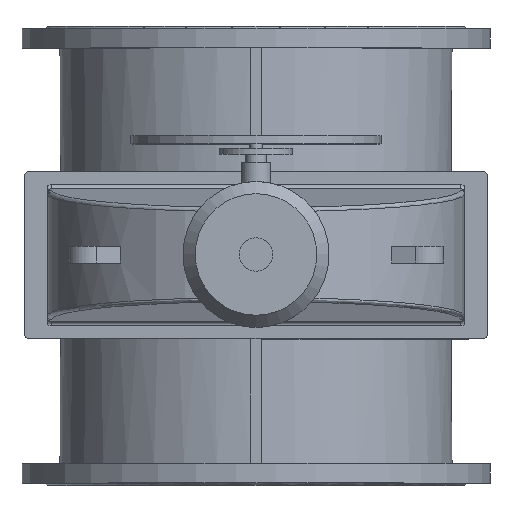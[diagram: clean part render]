
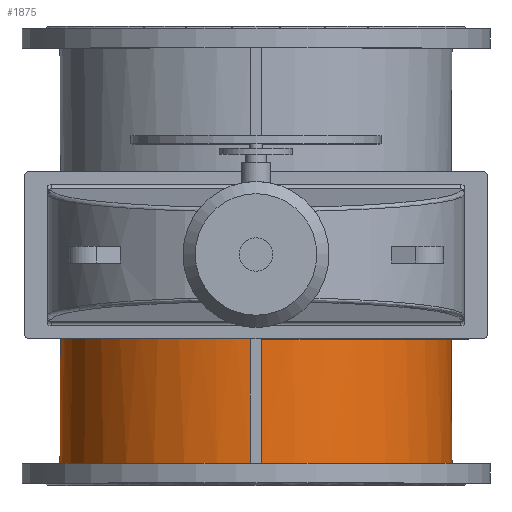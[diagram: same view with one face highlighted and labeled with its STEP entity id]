
A CAD part, top view. The second image highlights one B-rep face of the part: STEP entity #1875.
In plain terms, the highlighted cylindrical face has radius 470 mm (diameter 940 mm), a partial arc.
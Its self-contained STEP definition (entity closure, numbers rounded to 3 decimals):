
#1875=ADVANCED_FACE('',(#6922),#6924,.T.);
#6922=FACE_BOUND('',#6923,.T.);
#6923=EDGE_LOOP('',(#8940,#8941,#8942,#8943,#8944));
#6924=CYLINDRICAL_SURFACE('',#6925,470.);
#6925=AXIS2_PLACEMENT_3D('',#6926,#6927,#6928);
#6926=CARTESIAN_POINT('',(0.,-498.,0.));
#6927=DIRECTION('',(0.,1.,0.));
#6928=DIRECTION('',(0.,0.,1.));
#8940=ORIENTED_EDGE('',*,*,#10126,.F.);
#8941=ORIENTED_EDGE('',*,*,#10180,.F.);
#8942=ORIENTED_EDGE('',*,*,#10181,.F.);
#8943=ORIENTED_EDGE('',*,*,#10135,.F.);
#8944=ORIENTED_EDGE('',*,*,#10182,.T.);
#10126=EDGE_CURVE('',#11262,#11264,#11265,.F.);
#10135=EDGE_CURVE('',#11278,#11280,#11281,.T.);
#10180=EDGE_CURVE('',#11355,#11262,#11357,.T.);
#10181=EDGE_CURVE('',#11280,#11355,#11358,.T.);
#10182=EDGE_CURVE('',#11278,#11264,#11359,.T.);
#11262=VERTEX_POINT('',#14316);
#11264=VERTEX_POINT('',#14320);
#11265=LINE('',#14321,#14322);
#11278=VERTEX_POINT('',#14351);
#11280=VERTEX_POINT('',#14355);
#11281=LINE('',#14356,#14357);
#11355=VERTEX_POINT('',#14531);
#11357=(BOUNDED_CURVE()B_SPLINE_CURVE(3,
(#14535,#14536,#14537,#14538),
.UNSPECIFIED.,.F.,.F.)B_SPLINE_CURVE_WITH_KNOTS((4,4),
(0.,1.),
.UNSPECIFIED.)CURVE()GEOMETRIC_REPRESENTATION_ITEM()RATIONAL_B_SPLINE_CURVE((1.,
0.343,0.343,1.))REPRESENTATION_ITEM(''));
#11358=(BOUNDED_CURVE()B_SPLINE_CURVE(3,
(#14539,#14540,#14541,#14542),
.UNSPECIFIED.,.F.,.F.)B_SPLINE_CURVE_WITH_KNOTS((4,4),
(0.,1.),
.UNSPECIFIED.)CURVE()GEOMETRIC_REPRESENTATION_ITEM()RATIONAL_B_SPLINE_CURVE((1.,
0.343,0.343,1.))REPRESENTATION_ITEM(''));
#11359=CIRCLE('',#14543,470.);
#14316=CARTESIAN_POINT('',(-14.,-154.235,469.791));
#14320=CARTESIAN_POINT('',(-14.,-498.,469.791));
#14321=CARTESIAN_POINT('',(-14.,-498.,469.791));
#14322=VECTOR('',#14323,1.);
#14323=DIRECTION('',(0.,1.,0.));
#14351=CARTESIAN_POINT('',(14.,-498.,469.791));
#14355=CARTESIAN_POINT('',(14.,-154.235,469.791));
#14356=CARTESIAN_POINT('',(14.,-498.,469.791));
#14357=VECTOR('',#14358,1.);
#14358=DIRECTION('',(0.,1.,0.));
#14531=CARTESIAN_POINT('',(0.,-135.,-470.));
#14535=CARTESIAN_POINT('',(0.,-135.,-470.));
#14536=CARTESIAN_POINT('',(-912.706,-135.,-470.));
#14537=CARTESIAN_POINT('',(-926.301,-153.679,442.604));
#14538=CARTESIAN_POINT('',(-14.,-154.235,469.791));
#14539=CARTESIAN_POINT('',(14.,-154.235,469.791));
#14540=CARTESIAN_POINT('',(926.301,-153.679,442.604));
#14541=CARTESIAN_POINT('',(912.706,-135.,-470.));
#14542=CARTESIAN_POINT('',(0.,-135.,-470.));
#14543=AXIS2_PLACEMENT_3D('',#14544,#14545,#14546);
#14544=CARTESIAN_POINT('',(0.,-498.,0.));
#14545=DIRECTION('',(0.,1.,0.));
#14546=DIRECTION('',(0.03,0.,1.));
